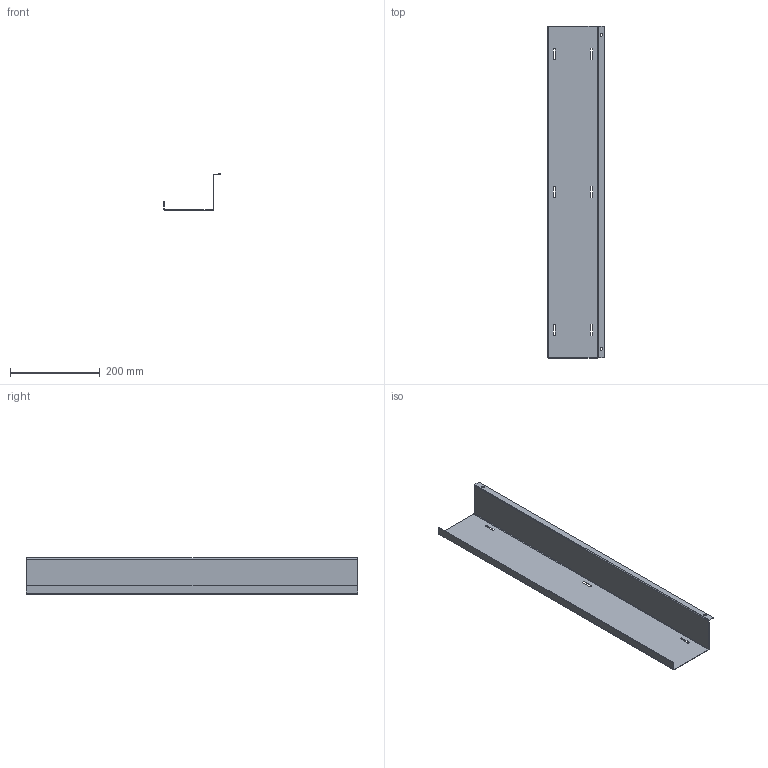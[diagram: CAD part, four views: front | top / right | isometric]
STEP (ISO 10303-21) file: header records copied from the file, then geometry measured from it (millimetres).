
FILE_DESCRIPTION ((), '1');
FILE_NAME ('C:\D\DESING\TABLE DESK PROJECT\MODESK WEB\3D MODELY KE STAZENI\PRISLUSENSTVI\KABELOVOD.stp', '2019-08-02T13:46:57', ('Unknown'), ('Unknown'), 'HarmonyWare STEP v1.4.3', 'HarmonyWare Translators', '');
FILE_SCHEMA (('CONFIG_CONTROL_DESIGN'));
Length unit declared in the file: millimetre
Products named in the file (1): KABELOVOD: T\X2\011B\X0\leso1
Bounding box: 126.03 x 740 x 80.52 mm (x, y, z)
Volume: 162857.8 mm3; surface area: 328018.7 mm2
Topology: 1 solids, 1 shells, 88 faces, 238 edges, 152 vertices
Faces by surface type: bspline 88
Entity records: 3111 total; most frequent: CARTESIAN_POINT 1652, ORIENTED_EDGE 476, EDGE_CURVE 238, VERTEX_POINT 152, B_SPLINE_CURVE_WITH_KNOTS 148, EDGE_LOOP 104, FACE_OUTER_BOUND 88, ADVANCED_FACE 88
